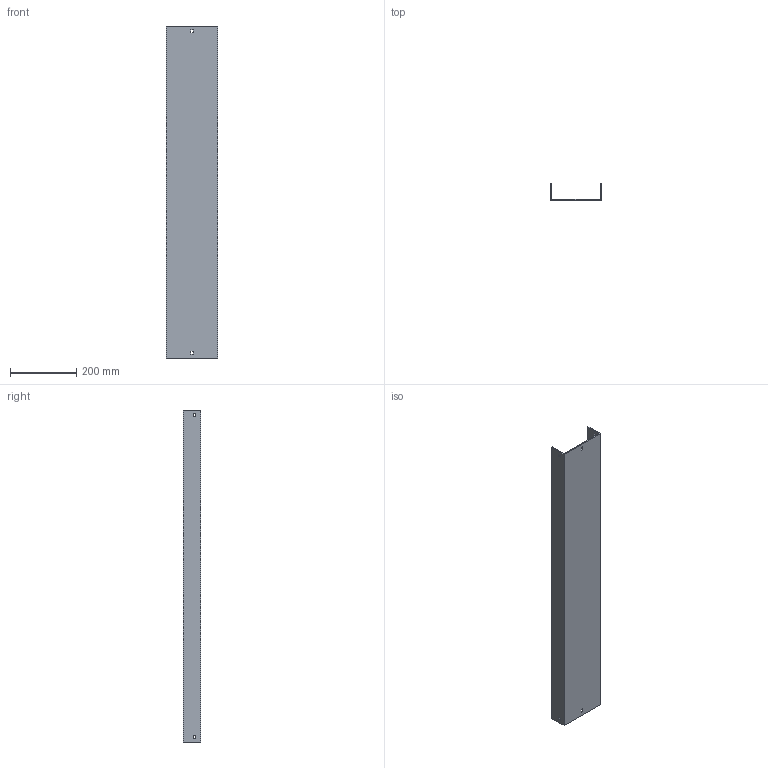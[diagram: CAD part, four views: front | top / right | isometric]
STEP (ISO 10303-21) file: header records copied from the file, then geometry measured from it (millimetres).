
FILE_DESCRIPTION (( 'STEP AP214' ), '1' );
FILE_NAME ('03F1B150.step', '2025-02-21T13:23:02', ( '' ), ( '' ), 'SwSTEP 2.0', 'SolidWorks 2023', '' );
FILE_SCHEMA (( 'AUTOMOTIVE_DESIGN' ));
Length unit declared in the file: millimetre
Products named in the file (1): 03F1B150
Bounding box: 154 x 52 x 1000 mm (x, y, z)
Volume: 877110.5 mm3; surface area: 510656 mm2
Topology: 1 solids, 1 shells, 34 faces, 96 edges, 64 vertices
Faces by surface type: plane 34
Entity records: 1127 total; most frequent: CARTESIAN_POINT 195, ORIENTED_EDGE 192, DIRECTION 166, LINE 96, VECTOR 96, EDGE_CURVE 96, VERTEX_POINT 64, EDGE_LOOP 46
